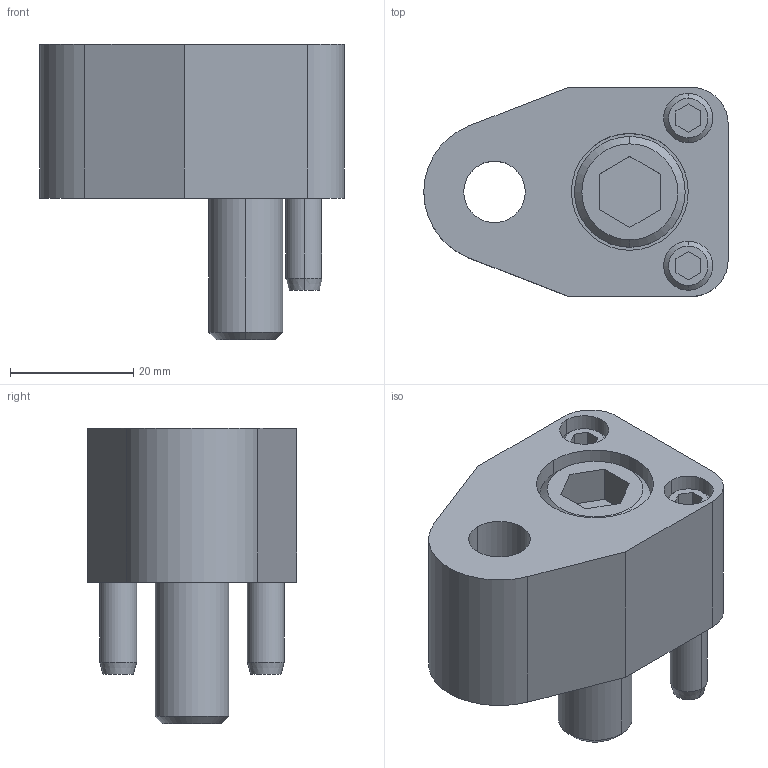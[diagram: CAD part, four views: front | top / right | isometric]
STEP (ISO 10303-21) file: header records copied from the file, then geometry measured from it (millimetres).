
FILE_DESCRIPTION(/* description */ (''),/* implementation_level */ '2;1');
FILE_NAME(/* name */ '3d_spars10_02785_r00.stp',/* time_stamp */ '2011-01-10T14:10:14+09:00',/* author */ ('MISUMI'),/* organization */ (''),/* preprocessor_version */ 'ST-DEVELOPER v11',/* originating_system */ 'UGS - NX 5.0',/* authorisation */ '');
FILE_SCHEMA (('CONFIG_CONTROL_DESIGN'));
Length unit declared in the file: millimetre
Products named in the file (1): 3d_spars10_02785_r00
Bounding box: 49.5 x 34 x 48 mm (x, y, z)
Volume: 34691.7 mm3; surface area: 13870.1 mm2
Topology: 6 solids, 6 shells, 112 faces, 242 edges, 154 vertices
Faces by surface type: plane 49, cylinder 41, cone 22
Entity records: 3186 total; most frequent: DIRECTION 568, CARTESIAN_POINT 557, ORIENTED_EDGE 484, EDGE_CURVE 242, AXIS2_PLACEMENT_3D 217, VERTEX_POINT 154, LINE 134, VECTOR 134
